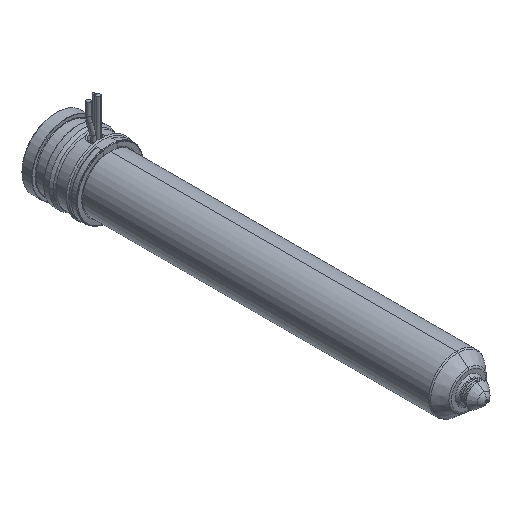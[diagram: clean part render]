
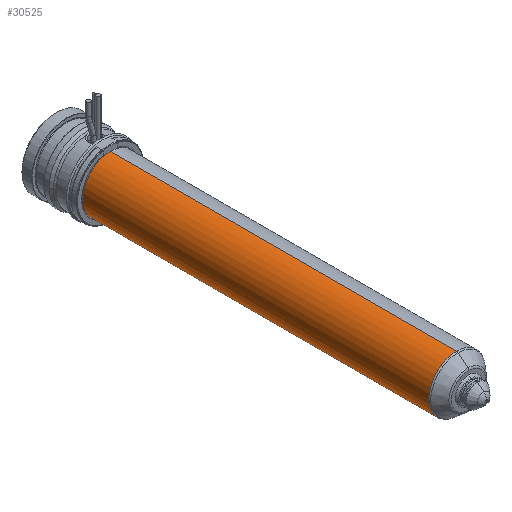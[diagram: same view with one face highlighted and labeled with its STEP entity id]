
A CAD part, isometric view. The second image highlights one B-rep face of the part: STEP entity #30525.
In plain terms, the highlighted cylindrical face has radius 12 mm (diameter 24 mm), a partial arc.
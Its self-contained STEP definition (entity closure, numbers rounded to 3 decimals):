
#29916=CARTESIAN_POINT('',(0.,-173.736,0.));
#29917=DIRECTION('',(0.,-1.,0.));
#29918=DIRECTION('',(0.,0.,1.));
#29919=AXIS2_PLACEMENT_3D('',#29916,#29917,#29918);
#29924=CARTESIAN_POINT('',(0.,-24.,0.));
#29925=DIRECTION('',(0.,1.,0.));
#29926=DIRECTION('',(0.,0.,-1.));
#29927=AXIS2_PLACEMENT_3D('',#29924,#29925,#29926);
#29932=DIRECTION('',(0.,1.,0.));
#29933=VECTOR('',#29932,149.736);
#29934=CARTESIAN_POINT('',(0.,-173.736,12.));
#29935=LINE('',#29934,#29933);
#29947=DIRECTION('',(0.,1.,0.));
#29948=VECTOR('',#29947,149.736);
#29949=CARTESIAN_POINT('',(0.,-173.736,-12.));
#29950=LINE('',#29949,#29948);
#30130=CARTESIAN_POINT('',(0.,-173.736,12.));
#30131=CARTESIAN_POINT('',(0.,-24.,12.));
#30132=VERTEX_POINT('',#30130);
#30133=VERTEX_POINT('',#30131);
#30134=CARTESIAN_POINT('',(0.,-173.736,-12.));
#30135=CARTESIAN_POINT('',(0.,-24.,-12.));
#30136=VERTEX_POINT('',#30134);
#30137=VERTEX_POINT('',#30135);
#30511=CARTESIAN_POINT('',(0.,-11.625,0.));
#30512=DIRECTION('',(0.,-1.,0.));
#30513=DIRECTION('',(0.,0.,1.));
#30514=AXIS2_PLACEMENT_3D('',#30511,#30512,#30513);
#30515=CYLINDRICAL_SURFACE('',#30514,12.);
#30517=ORIENTED_EDGE('',*,*,#30516,.F.);
#30518=ORIENTED_EDGE('',*,*,#30506,.T.);
#30520=ORIENTED_EDGE('',*,*,#30519,.T.);
#30522=ORIENTED_EDGE('',*,*,#30521,.T.);
#30523=EDGE_LOOP('',(#30517,#30518,#30520,#30522));
#30524=FACE_OUTER_BOUND('',#30523,.F.);
#30525=ADVANCED_FACE('',(#30524),#30515,.T.);
#29920=CIRCLE('',#29919,12.);
#29928=CIRCLE('',#29927,12.);
#30506=EDGE_CURVE('',#30132,#30136,#29920,.T.);
#30516=EDGE_CURVE('',#30132,#30133,#29935,.T.);
#30519=EDGE_CURVE('',#30136,#30137,#29950,.T.);
#30521=EDGE_CURVE('',#30137,#30133,#29928,.T.);
